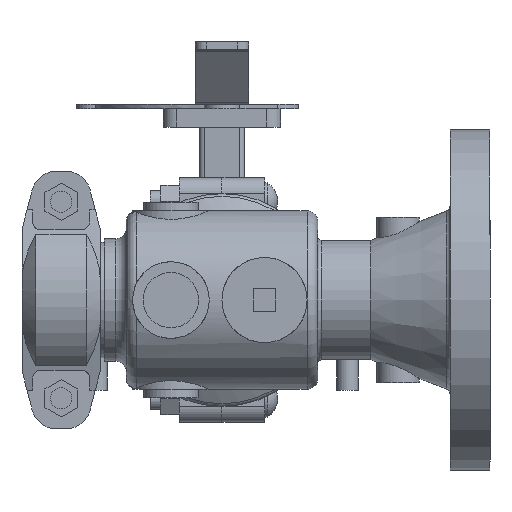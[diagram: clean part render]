
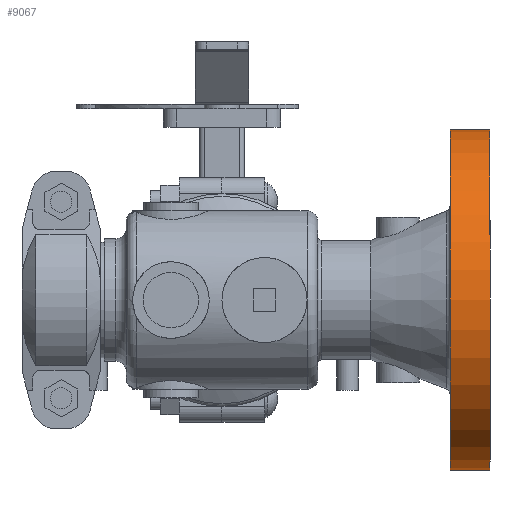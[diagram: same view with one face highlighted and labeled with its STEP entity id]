
A CAD part, front view. The second image highlights one B-rep face of the part: STEP entity #9067.
In plain terms, the highlighted cylindrical face has radius 101.6 mm (diameter 203.2 mm), a full revolution.
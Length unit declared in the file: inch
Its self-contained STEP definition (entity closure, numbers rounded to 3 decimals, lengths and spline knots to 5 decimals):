
#649=FACE_OUTER_BOUND('',#1160,.T.);
#1160=EDGE_LOOP('',(#5927,#5928,#5929,#5930,#5931,#5932));
#1800=CIRCLE('',#9809,4.);
#1801=CIRCLE('',#9810,4.);
#1810=CIRCLE('',#9820,4.);
#1811=CIRCLE('',#9821,4.);
#2275=LINE('',#14393,#2942);
#2942=VECTOR('',#10980,4.);
#3647=VERTEX_POINT('',#14371);
#3648=VERTEX_POINT('',#14372);
#3657=VERTEX_POINT('',#14392);
#3658=VERTEX_POINT('',#14394);
#4551=EDGE_CURVE('',#3647,#3648,#1800,.T.);
#4552=EDGE_CURVE('',#3648,#3647,#1801,.T.);
#4561=EDGE_CURVE('',#3648,#3657,#2275,.T.);
#4562=EDGE_CURVE('',#3657,#3658,#1810,.T.);
#4563=EDGE_CURVE('',#3658,#3657,#1811,.T.);
#5927=ORIENTED_EDGE('',*,*,#4551,.F.);
#5928=ORIENTED_EDGE('',*,*,#4552,.F.);
#5929=ORIENTED_EDGE('',*,*,#4561,.T.);
#5930=ORIENTED_EDGE('',*,*,#4562,.T.);
#5931=ORIENTED_EDGE('',*,*,#4563,.T.);
#5932=ORIENTED_EDGE('',*,*,#4561,.F.);
#8362=CYLINDRICAL_SURFACE('',#9819,4.);
#9067=ADVANCED_FACE('',(#649),#8362,.T.);
#9809=AXIS2_PLACEMENT_3D('',#14373,#10958,#10959);
#9810=AXIS2_PLACEMENT_3D('',#14374,#10960,#10961);
#9819=AXIS2_PLACEMENT_3D('',#14391,#10978,#10979);
#9820=AXIS2_PLACEMENT_3D('',#14395,#10981,#10982);
#9821=AXIS2_PLACEMENT_3D('',#14396,#10983,#10984);
#10958=DIRECTION('center_axis',(1.,0.,0.));
#10959=DIRECTION('ref_axis',(0.,0.,-1.));
#10960=DIRECTION('center_axis',(1.,0.,0.));
#10961=DIRECTION('ref_axis',(0.,0.,-1.));
#10978=DIRECTION('center_axis',(1.,0.,0.));
#10979=DIRECTION('ref_axis',(0.,1.,0.));
#10980=DIRECTION('',(-1.,0.,0.));
#10981=DIRECTION('center_axis',(1.,0.,0.));
#10982=DIRECTION('ref_axis',(0.,0.,-1.));
#10983=DIRECTION('center_axis',(1.,0.,0.));
#10984=DIRECTION('ref_axis',(0.,0.,-1.));
#14371=CARTESIAN_POINT('',(6.3,4.,0.));
#14372=CARTESIAN_POINT('',(6.3,-4.,0.));
#14373=CARTESIAN_POINT('Origin',(6.3,0.,0.));
#14374=CARTESIAN_POINT('Origin',(6.3,0.,0.));
#14391=CARTESIAN_POINT('Origin',(5.83,0.,0.));
#14392=CARTESIAN_POINT('',(5.36,-4.,0.));
#14393=CARTESIAN_POINT('',(5.83,-4.,0.));
#14394=CARTESIAN_POINT('',(5.36,4.,0.));
#14395=CARTESIAN_POINT('Origin',(5.36,0.,0.));
#14396=CARTESIAN_POINT('Origin',(5.36,0.,0.));
